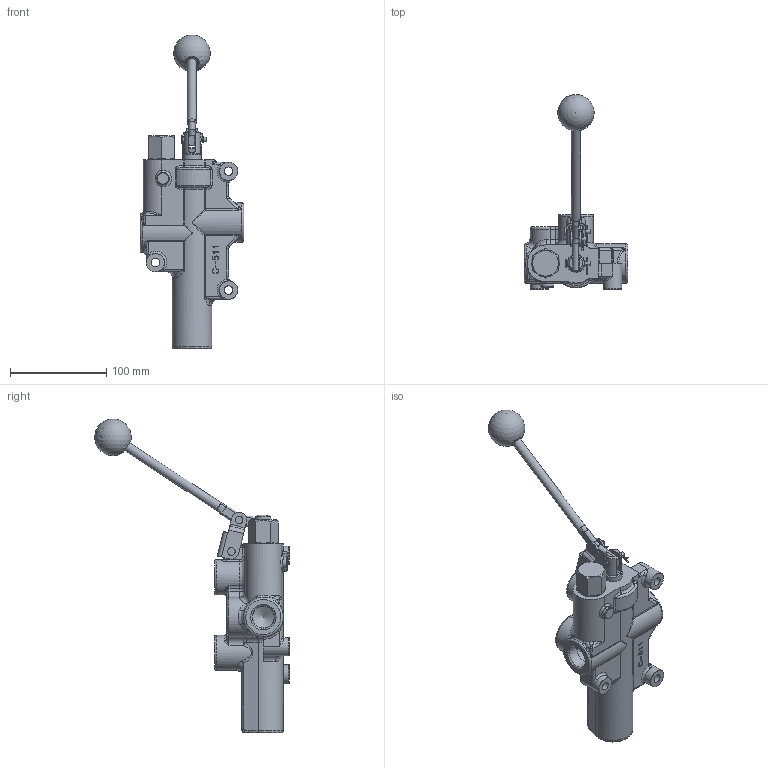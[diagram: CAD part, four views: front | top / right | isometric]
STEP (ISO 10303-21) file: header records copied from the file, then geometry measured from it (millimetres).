
FILE_DESCRIPTION((''),'2;1');
FILE_NAME('C:\Vault\Workspace\z_ShellModels\LV_LS30_RD25_RD41\RD-2575-T4-ESA1_Shell.stp','2012-03-19T09:59:26',('PetersW'),(''),'Autodesk Inventor 2012','Autodesk Inventor 2012','');
FILE_SCHEMA(('AUTOMOTIVE_DESIGN { 1 0 10303 214 1 1 1 1 }'));
Length unit declared in the file: inch
Products named in the file (1): Part2
Bounding box: 107.95 x 202.43 x 326.9 mm (x, y, z)
Volume: 630514.2 mm3; surface area: 103234.3 mm2
Topology: 7 solids, 13 shells, 981 faces, 2475 edges, 1521 vertices
Faces by surface type: plane 384, cylinder 291, bspline 154, torus 93, cone 37, sphere 22
Full cylindrical faces by diameter (mm): 2.381 x3, 4.661 x3, 4.801 x2, 4.813 x3, 4.826 x4, 4.978 x1, 7.925 x3, 7.938 x1, 8.839 x3, 9.525 x1, 11.1 x1, 12.192 x1, 12.7 x1, 17.018 x1, 17.475 x2, 19.05 x5, 20.269 x2, 22.39 x1, 22.631 x2, 28.575 x1, 31.75 x1, 36.5 x2, 41.275 x1
Entity records: 38127 total; most frequent: CARTESIAN_POINT 15044, ORIENTED_EDGE 4632, DIRECTION 4312, EDGE_CURVE 2316, AXIS2_PLACEMENT_3D 1581, VERTEX_POINT 1472, VECTOR 1150, LINE 1150
